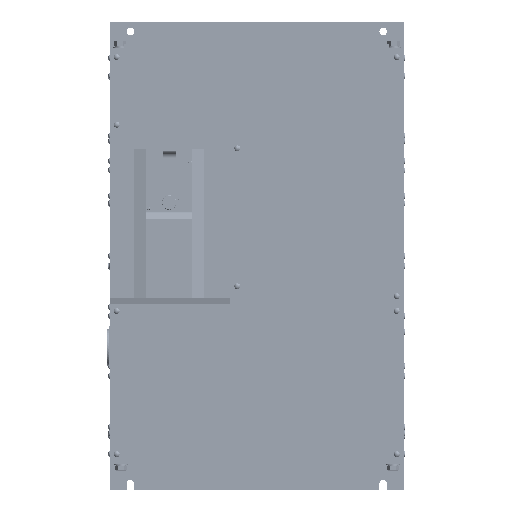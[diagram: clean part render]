
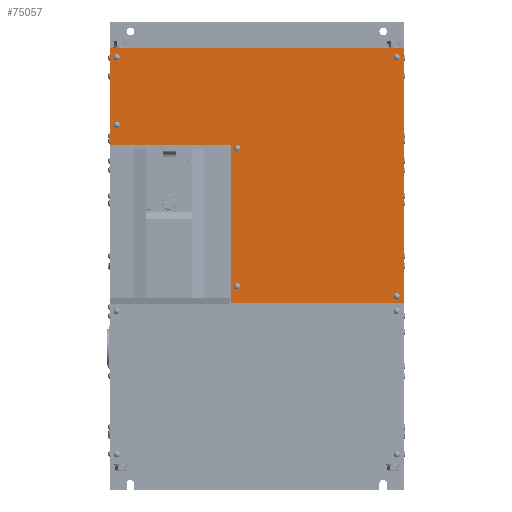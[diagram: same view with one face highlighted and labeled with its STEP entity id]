
A CAD part, top view. The second image highlights one B-rep face of the part: STEP entity #75057.
In plain terms, the highlighted planar face has unit normal (0, 0, 1).
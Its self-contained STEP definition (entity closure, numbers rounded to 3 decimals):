
#9552=DIRECTION('',(0.,1.,0.));
#9553=VECTOR('',#9552,153.);
#9554=CARTESIAN_POINT('',(0.,500.,349.6));
#9555=LINE('',#9554,#9553);
#26690=DIRECTION('',(0.,1.,0.));
#26691=VECTOR('',#26690,250.5);
#26692=CARTESIAN_POINT('',(191.,249.5,349.6));
#26693=LINE('',#26692,#26691);
#26694=DIRECTION('',(1.,0.,0.));
#26695=VECTOR('',#26694,191.);
#26696=CARTESIAN_POINT('',(0.,500.,349.6));
#26697=LINE('',#26696,#26695);
#26698=DIRECTION('',(1.,0.,0.));
#26699=VECTOR('',#26698,274.);
#26700=CARTESIAN_POINT('',(191.,249.5,349.6));
#26701=LINE('',#26700,#26699);
#26702=CARTESIAN_POINT('',(11.,639.,349.6));
#26703=DIRECTION('',(0.,0.,-1.));
#26704=DIRECTION('',(-1.,0.,0.));
#26705=AXIS2_PLACEMENT_3D('',#26702,#26703,#26704);
#26707=CARTESIAN_POINT('',(11.,639.,349.6));
#26708=DIRECTION('',(0.,0.,-1.));
#26709=DIRECTION('',(1.,0.,0.));
#26710=AXIS2_PLACEMENT_3D('',#26707,#26708,#26709);
#26712=CARTESIAN_POINT('',(11.,532.,349.6));
#26713=DIRECTION('',(0.,0.,-1.));
#26714=DIRECTION('',(-1.,0.,0.));
#26715=AXIS2_PLACEMENT_3D('',#26712,#26713,#26714);
#26717=CARTESIAN_POINT('',(11.,532.,349.6));
#26718=DIRECTION('',(0.,0.,-1.));
#26719=DIRECTION('',(1.,0.,0.));
#26720=AXIS2_PLACEMENT_3D('',#26717,#26718,#26719);
#26722=CARTESIAN_POINT('',(201.6,494.6,349.6));
#26723=DIRECTION('',(0.,0.,-1.));
#26724=DIRECTION('',(-1.,0.,0.));
#26725=AXIS2_PLACEMENT_3D('',#26722,#26723,#26724);
#26727=CARTESIAN_POINT('',(201.6,494.6,349.6));
#26728=DIRECTION('',(0.,0.,1.));
#26729=DIRECTION('',(-1.,0.,0.));
#26730=AXIS2_PLACEMENT_3D('',#26727,#26728,#26729);
#26732=CARTESIAN_POINT('',(201.6,276.6,349.6));
#26733=DIRECTION('',(0.,0.,-1.));
#26734=DIRECTION('',(-1.,0.,0.));
#26735=AXIS2_PLACEMENT_3D('',#26732,#26733,#26734);
#26737=CARTESIAN_POINT('',(201.6,276.6,349.6));
#26738=DIRECTION('',(0.,0.,1.));
#26739=DIRECTION('',(-1.,0.,0.));
#26740=AXIS2_PLACEMENT_3D('',#26737,#26738,#26739);
#26742=CARTESIAN_POINT('',(454.,639.,349.6));
#26743=DIRECTION('',(0.,0.,-1.));
#26744=DIRECTION('',(-1.,0.,0.));
#26745=AXIS2_PLACEMENT_3D('',#26742,#26743,#26744);
#26747=CARTESIAN_POINT('',(454.,639.,349.6));
#26748=DIRECTION('',(0.,0.,-1.));
#26749=DIRECTION('',(1.,0.,0.));
#26750=AXIS2_PLACEMENT_3D('',#26747,#26748,#26749);
#26752=CARTESIAN_POINT('',(454.,261.,349.6));
#26753=DIRECTION('',(0.,0.,-1.));
#26754=DIRECTION('',(-1.,0.,0.));
#26755=AXIS2_PLACEMENT_3D('',#26752,#26753,#26754);
#26757=CARTESIAN_POINT('',(454.,261.,349.6));
#26758=DIRECTION('',(0.,0.,-1.));
#26759=DIRECTION('',(1.,0.,0.));
#26760=AXIS2_PLACEMENT_3D('',#26757,#26758,#26759);
#26762=DIRECTION('',(1.,0.,0.));
#26763=VECTOR('',#26762,465.);
#26764=CARTESIAN_POINT('',(0.,653.,349.6));
#26765=LINE('',#26764,#26763);
#27084=DIRECTION('',(0.,1.,0.));
#27085=VECTOR('',#27084,403.5);
#27086=CARTESIAN_POINT('',(465.,249.5,349.6));
#27087=LINE('',#27086,#27085);
#36936=CARTESIAN_POINT('',(0.,653.,349.6));
#36938=VERTEX_POINT('',#36936);
#36944=CARTESIAN_POINT('',(465.,249.5,349.6));
#36945=CARTESIAN_POINT('',(465.,653.,349.6));
#36946=VERTEX_POINT('',#36944);
#36947=VERTEX_POINT('',#36945);
#36955=CARTESIAN_POINT('',(191.,249.5,349.6));
#36957=VERTEX_POINT('',#36955);
#36958=CARTESIAN_POINT('',(191.,500.,349.6));
#36959=VERTEX_POINT('',#36958);
#36960=CARTESIAN_POINT('',(0.,500.,349.6));
#36961=VERTEX_POINT('',#36960);
#36988=CARTESIAN_POINT('',(6.3,639.,349.6));
#36989=CARTESIAN_POINT('',(15.7,639.,349.6));
#36990=VERTEX_POINT('',#36988);
#36991=VERTEX_POINT('',#36989);
#36998=CARTESIAN_POINT('',(6.3,532.,349.6));
#36999=CARTESIAN_POINT('',(15.7,532.,349.6));
#37000=VERTEX_POINT('',#36998);
#37001=VERTEX_POINT('',#36999);
#37012=CARTESIAN_POINT('',(196.9,494.6,349.6));
#37013=CARTESIAN_POINT('',(206.3,494.6,349.6));
#37014=VERTEX_POINT('',#37012);
#37015=VERTEX_POINT('',#37013);
#37034=CARTESIAN_POINT('',(196.9,276.6,349.6));
#37035=CARTESIAN_POINT('',(206.3,276.6,349.6));
#37036=VERTEX_POINT('',#37034);
#37037=VERTEX_POINT('',#37035);
#37052=CARTESIAN_POINT('',(449.3,639.,349.6));
#37053=CARTESIAN_POINT('',(458.7,639.,349.6));
#37054=VERTEX_POINT('',#37052);
#37055=VERTEX_POINT('',#37053);
#37062=CARTESIAN_POINT('',(449.3,261.,349.6));
#37063=CARTESIAN_POINT('',(458.7,261.,349.6));
#37064=VERTEX_POINT('',#37062);
#37065=VERTEX_POINT('',#37063);
#75005=CARTESIAN_POINT('',(0.,249.5,349.6));
#75006=DIRECTION('',(0.,0.,1.));
#75007=DIRECTION('',(0.,1.,0.));
#75008=AXIS2_PLACEMENT_3D('',#75005,#75006,#75007);
#75009=PLANE('',#75008);
#75010=ORIENTED_EDGE('',*,*,#51163,.T.);
#75011=ORIENTED_EDGE('',*,*,#74998,.F.);
#75012=ORIENTED_EDGE('',*,*,#50197,.T.);
#75014=ORIENTED_EDGE('',*,*,#75013,.T.);
#75016=ORIENTED_EDGE('',*,*,#75015,.F.);
#75018=ORIENTED_EDGE('',*,*,#75017,.F.);
#75019=EDGE_LOOP('',(#75010,#75011,#75012,#75014,#75016,#75018));
#75020=FACE_OUTER_BOUND('',#75019,.F.);
#75022=ORIENTED_EDGE('',*,*,#75021,.F.);
#75024=ORIENTED_EDGE('',*,*,#75023,.F.);
#75025=EDGE_LOOP('',(#75022,#75024));
#75026=FACE_BOUND('',#75025,.F.);
#75028=ORIENTED_EDGE('',*,*,#75027,.F.);
#75030=ORIENTED_EDGE('',*,*,#75029,.F.);
#75031=EDGE_LOOP('',(#75028,#75030));
#75032=FACE_BOUND('',#75031,.F.);
#75034=ORIENTED_EDGE('',*,*,#75033,.F.);
#75036=ORIENTED_EDGE('',*,*,#75035,.T.);
#75037=EDGE_LOOP('',(#75034,#75036));
#75038=FACE_BOUND('',#75037,.F.);
#75040=ORIENTED_EDGE('',*,*,#75039,.F.);
#75042=ORIENTED_EDGE('',*,*,#75041,.T.);
#75043=EDGE_LOOP('',(#75040,#75042));
#75044=FACE_BOUND('',#75043,.F.);
#75046=ORIENTED_EDGE('',*,*,#75045,.F.);
#75048=ORIENTED_EDGE('',*,*,#75047,.F.);
#75049=EDGE_LOOP('',(#75046,#75048));
#75050=FACE_BOUND('',#75049,.F.);
#75052=ORIENTED_EDGE('',*,*,#75051,.F.);
#75054=ORIENTED_EDGE('',*,*,#75053,.F.);
#75055=EDGE_LOOP('',(#75052,#75054));
#75056=FACE_BOUND('',#75055,.F.);
#75057=ADVANCED_FACE('',(#75020,#75026,#75032,#75038,#75044,#75050,#75056),
#75009,.T.);
#26706=CIRCLE('',#26705,4.7);
#26711=CIRCLE('',#26710,4.7);
#26716=CIRCLE('',#26715,4.7);
#26721=CIRCLE('',#26720,4.7);
#26726=CIRCLE('',#26725,4.7);
#26731=CIRCLE('',#26730,4.7);
#26736=CIRCLE('',#26735,4.7);
#26741=CIRCLE('',#26740,4.7);
#26746=CIRCLE('',#26745,4.7);
#26751=CIRCLE('',#26750,4.7);
#26756=CIRCLE('',#26755,4.7);
#26761=CIRCLE('',#26760,4.7);
#50197=EDGE_CURVE('',#36961,#36938,#9555,.T.);
#51163=EDGE_CURVE('',#36957,#36959,#26693,.T.);
#74998=EDGE_CURVE('',#36961,#36959,#26697,.T.);
#75013=EDGE_CURVE('',#36938,#36947,#26765,.T.);
#75015=EDGE_CURVE('',#36946,#36947,#27087,.T.);
#75017=EDGE_CURVE('',#36957,#36946,#26701,.T.);
#75021=EDGE_CURVE('',#36990,#36991,#26706,.T.);
#75023=EDGE_CURVE('',#36991,#36990,#26711,.T.);
#75027=EDGE_CURVE('',#37000,#37001,#26716,.T.);
#75029=EDGE_CURVE('',#37001,#37000,#26721,.T.);
#75033=EDGE_CURVE('',#37014,#37015,#26726,.T.);
#75035=EDGE_CURVE('',#37014,#37015,#26731,.T.);
#75039=EDGE_CURVE('',#37036,#37037,#26736,.T.);
#75041=EDGE_CURVE('',#37036,#37037,#26741,.T.);
#75045=EDGE_CURVE('',#37054,#37055,#26746,.T.);
#75047=EDGE_CURVE('',#37055,#37054,#26751,.T.);
#75051=EDGE_CURVE('',#37064,#37065,#26756,.T.);
#75053=EDGE_CURVE('',#37065,#37064,#26761,.T.);
